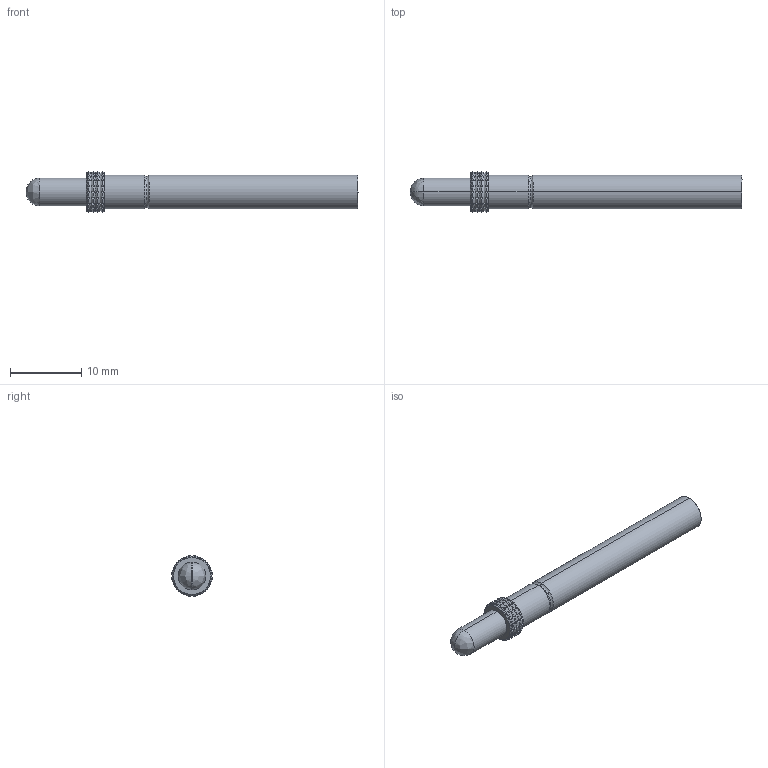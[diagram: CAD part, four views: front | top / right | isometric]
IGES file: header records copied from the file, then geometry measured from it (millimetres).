
Start section: SolidWorks IGES file using analytic representation for surfaces
Global section: file name: O:\PYLON\IGES FILES\P4301\P4301-2R REC'D.IGS; native system: SolidWorks 2015; preprocessor: SolidWorks 2015; author: kgolden; date: 171020.124532; units: inch
Bounding box: 46.56 x 5.7 x 5.7 mm (x, y, z)
Surface area: 1282.7 mm2 (no closed solid volume)
Topology: 0 solids, 0 shells, 374 faces, 1965 edges, 1965 vertices
Faces by surface type: revolution 193, bspline 181
